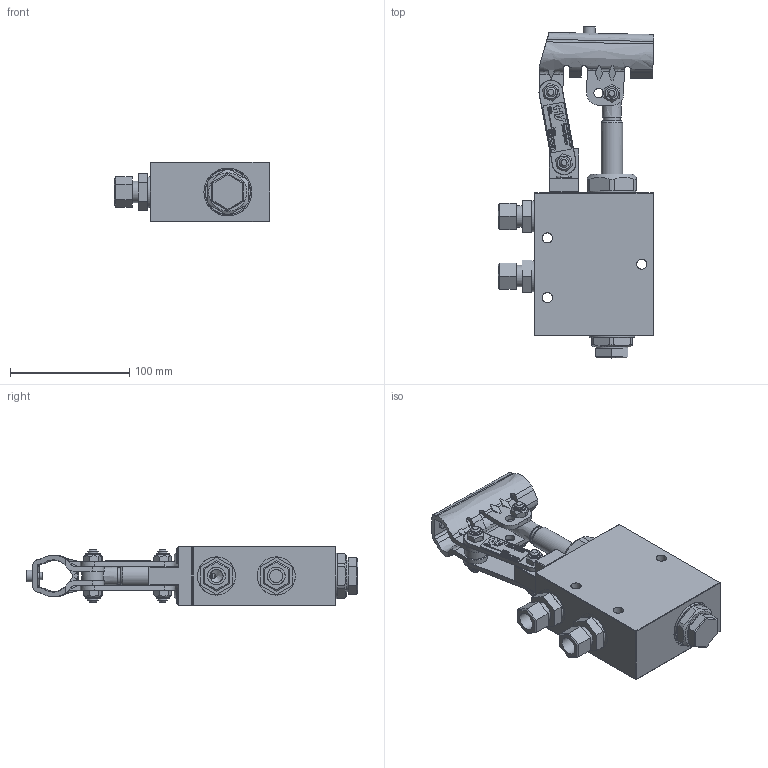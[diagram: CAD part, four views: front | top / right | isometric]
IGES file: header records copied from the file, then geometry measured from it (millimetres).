
Global section: file name: No Iges File Name specified; native system: Autodesk Inventor 2013; preprocessor: AutoDesk Inventor Iges Exporter R2013; author: christian.scardovi; date: 20240329.114933; units: millimetre
Bounding box: 130 x 277.96 x 50 mm (x, y, z)
Volume: 706518.2 mm3; surface area: 124449.2 mm2
Topology: 3 solids, 3 shells, 1161 faces, 2933 edges, 1882 vertices
Faces by surface type: bspline 1161
